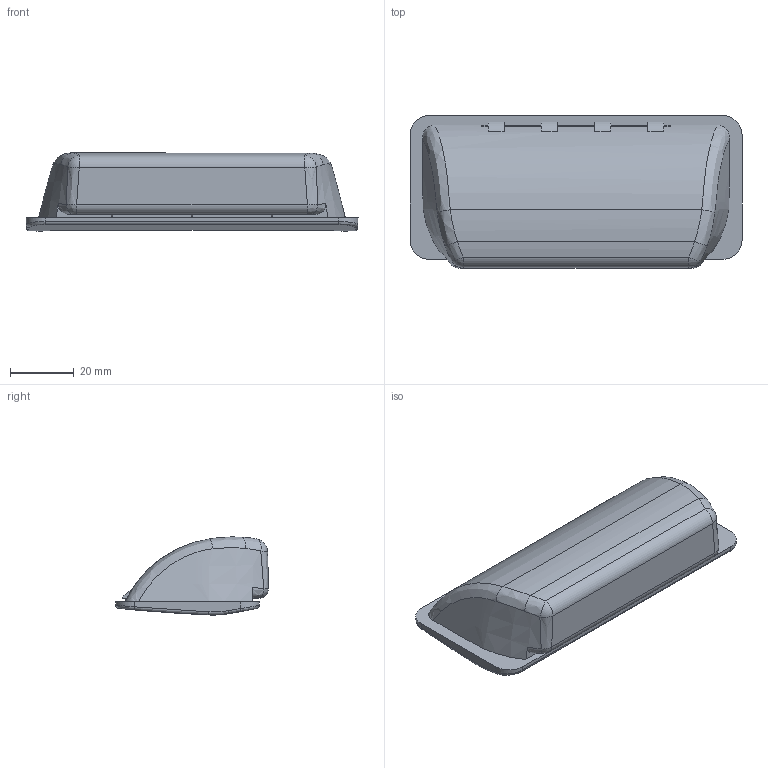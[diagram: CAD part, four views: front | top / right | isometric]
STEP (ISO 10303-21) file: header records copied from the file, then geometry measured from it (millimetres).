
FILE_DESCRIPTION (( 'STEP AP203' ), '1' );
FILE_NAME ('E25-25102.STEP', '2024-12-13T07:12:20', ( '' ), ( '' ), 'SwSTEP 2.0', 'SolidWorks 2021', '' );
FILE_SCHEMA (( 'CONFIG_CONTROL_DESIGN' ));
Length unit declared in the file: millimetre
Products named in the file (1): E25-25102
Bounding box: 104 x 47.86 x 24.46 mm (x, y, z)
Volume: 20489.3 mm3; surface area: 18923.5 mm2
Topology: 1 solids, 1 shells, 136 faces, 325 edges, 190 vertices
Faces by surface type: bspline 60, plane 42, cylinder 24, sphere 6, cone 4
Entity records: 5944 total; most frequent: CARTESIAN_POINT 3203, ORIENTED_EDGE 646, DIRECTION 431, EDGE_CURVE 323, VERTEX_POINT 190, AXIS2_PLACEMENT_3D 157, EDGE_LOOP 137, FACE_OUTER_BOUND 136
